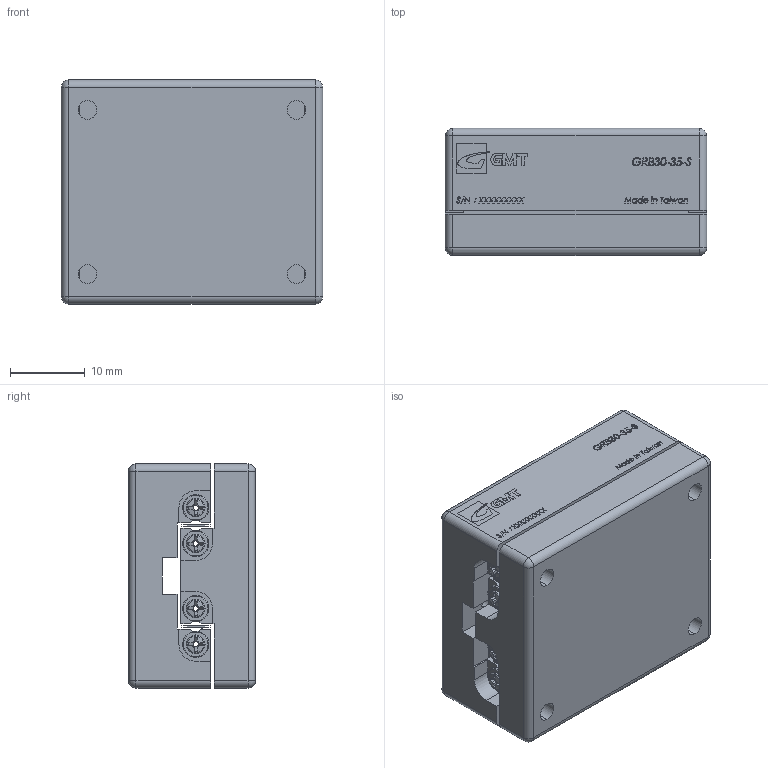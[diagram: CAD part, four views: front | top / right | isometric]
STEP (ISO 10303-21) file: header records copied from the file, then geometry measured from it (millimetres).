
FILE_DESCRIPTION (( 'STEP AP203' ), '1' );
FILE_NAME ('GRB30-35-S.STEP', '2013-12-17T05:47:56', ( '' ), ( '' ), 'SwSTEP 2.0', 'SolidWorks 2013', '' );
FILE_SCHEMA (( 'CONFIG_CONTROL_DESIGN' ));
Length unit declared in the file: millimetre
Products named in the file (1): GRB30-35-S
Bounding box: 35 x 17 x 30 mm (x, y, z)
Surface area: 7706.9 mm2 (no closed solid volume)
Topology: 0 solids, 42 shells, 455 faces, 2297 edges, 1864 vertices
Faces by surface type: plane 263, cylinder 84, torus 48, cone 32, sphere 24, bspline 4
Entity records: 27345 total; most frequent: CARTESIAN_POINT 9921, DIRECTION 3345, ORIENTED_EDGE 3180, EDGE_CURVE 2289, VERTEX_POINT 1864, VECTOR 1281, LINE 1281, AXIS2_PLACEMENT_3D 1032
